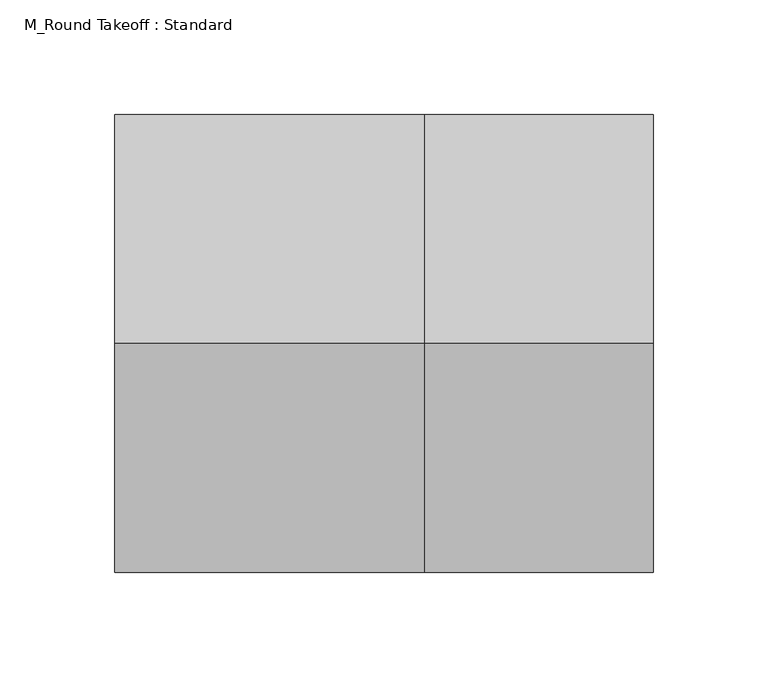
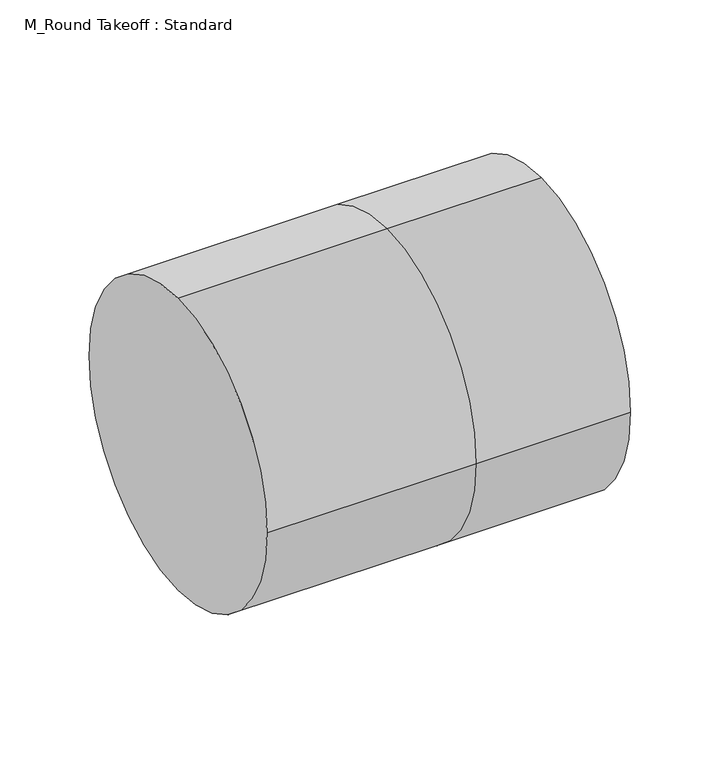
"""IFC4 building model written with IfcOpenShell, lengths in millimetres: duct fitting geometry, M_Round Takeoff : Standard."""

from ifc_helpers import new_model, si_unit, frame, origin, place, context, project, spatial, circle_curve, source, transform, mapped, element, save
from ifc_brep_helpers import plane_surface, cylinder_surface, advanced_brep


def m_round_takeoff_standard_0ce1f715(model_context):
    return source(origin(), model_context, "Body", "AdvancedBrep", [
        advanced_brep(
        [(-135.3253562, 0.0, 100.0), (-135.3253562, 100.0, 0.0), (-135.3253562, 0.0, -100.0), (-135.3253562, -100.0, 0.0), (0.0, -100.0, 0.0), (0.0, 0.0, 100.0), (0.0, 0.0, -100.0), (0.0, 100.0, 0.0), (100.0, 0.0, 100.0), (100.0, -100.0, 0.0), (100.0, 0.0, -100.0), (100.0, 100.0, 0.0)],
        [
            (0, 1, circle_curve(frame((-135.3253562, 0.0, 0.0), z_axis=(-1.0, 0.0, 0.0), x_axis=(0.0, -1.0, 0.0)), 100.0)),
            (1, 2, circle_curve(frame((-135.3253562, 0.0, 0.0), z_axis=(-1.0, 0.0, 0.0), x_axis=(0.0, -1.0, 0.0)), 100.0)),
            (2, 3, circle_curve(frame((-135.3253562, 0.0, 0.0), z_axis=(-1.0, 0.0, 0.0), x_axis=(0.0, -1.0, 0.0)), 100.0)),
            (3, 0, circle_curve(frame((-135.3253562, 0.0, 0.0), z_axis=(-1.0, 0.0, 0.0), x_axis=(0.0, -1.0, 0.0)), 100.0)),
            (3, 4),
            (4, 5, circle_curve(frame((0.0, 0.0, 0.0), z_axis=(-1.0, 0.0, 0.0), x_axis=(0.0, -1.0, 0.0)), 100.0)),
            (5, 0),
            (2, 6),
            (6, 4, circle_curve(frame((0.0, 0.0, 0.0), z_axis=(-1.0, 0.0, 0.0), x_axis=(0.0, -1.0, 0.0)), 100.0)),
            (1, 7),
            (7, 6, circle_curve(frame((0.0, 0.0, 0.0), z_axis=(-1.0, 0.0, 0.0), x_axis=(0.0, -1.0, 0.0)), 100.0)),
            (5, 7, circle_curve(frame((0.0, 0.0, 0.0), z_axis=(-1.0, 0.0, 0.0), x_axis=(0.0, -1.0, 0.0)), 100.0)),
            (8, 9, circle_curve(frame((100.0, 0.0, 0.0), z_axis=(1.0, 0.0, 0.0), x_axis=(0.0, -1.0, 0.0)), 100.0)),
            (9, 10, circle_curve(frame((100.0, 0.0, 0.0), z_axis=(1.0, 0.0, 0.0), x_axis=(0.0, -1.0, 0.0)), 100.0)),
            (10, 11, circle_curve(frame((100.0, 0.0, 0.0), z_axis=(1.0, 0.0, 0.0), x_axis=(0.0, -1.0, 0.0)), 100.0)),
            (11, 8, circle_curve(frame((100.0, 0.0, 0.0), z_axis=(1.0, 0.0, 0.0), x_axis=(0.0, -1.0, 0.0)), 100.0)),
            (8, 5),
            (4, 9),
            (6, 10),
            (7, 11),
        ],
        [
            plane_surface(frame((-135.3253562, 0.0, 0.0), z_axis=(-1.0, 0.0, 0.0), x_axis=(0.0, 0.0, 1.0))),
            cylinder_surface(frame((-135.3253562, 0.0, 0.0), z_axis=(-1.0, 0.0, 0.0), x_axis=(0.0, -1.0, 0.0)), 100.0),
            plane_surface(frame((100.0, 0.0, 0.0), z_axis=(1.0, 0.0, 0.0), x_axis=(0.0, 0.0, 1.0))),
            cylinder_surface(frame((0.0, 0.0, 0.0), z_axis=(-1.0, 0.0, 0.0), x_axis=(0.0, -1.0, 0.0)), 100.0),
        ],
        [
            (0, [[1, 2, 3, 4]]),
            (1, [[5, 6, 7, -4]]),
            (1, [[8, 9, -5, -3]]),
            (1, [[10, 11, -8, -2]]),
            (1, [[-7, 12, -10, -1]]),
            (2, [[13, 14, 15, 16]]),
            (3, [[17, -6, 18, -13]]),
            (3, [[-18, -9, 19, -14]]),
            (3, [[-19, -11, 20, -15]]),
            (3, [[-20, -12, -17, -16]]),
        ],
    ),
        advanced_brep(
        [(100.0, 0.0, 100.0), (100.0, -100.0, 0.0), (100.0, 0.0, -100.0), (100.0, 100.0, 0.0), (0.0, 0.0, 100.0), (0.0, -100.0, 0.0), (0.0, 0.0, -100.0), (0.0, 100.0, 0.0), (-135.3253562, 0.0, 100.0), (-135.3253562, 100.0, 0.0), (-135.3253562, 0.0, -100.0), (-135.3253562, -100.0, 0.0)],
        [
            (0, 1, circle_curve(frame((100.0, 0.0, 0.0), z_axis=(1.0, 0.0, 0.0), x_axis=(0.0, -1.0, 0.0)), 100.0)),
            (1, 2, circle_curve(frame((100.0, 0.0, 0.0), z_axis=(1.0, 0.0, 0.0), x_axis=(0.0, -1.0, 0.0)), 100.0)),
            (2, 3, circle_curve(frame((100.0, 0.0, 0.0), z_axis=(1.0, 0.0, 0.0), x_axis=(0.0, -1.0, 0.0)), 100.0)),
            (3, 0, circle_curve(frame((100.0, 0.0, 0.0), z_axis=(1.0, 0.0, 0.0), x_axis=(0.0, -1.0, 0.0)), 100.0)),
            (0, 4),
            (4, 5, circle_curve(frame((0.0, 0.0, 0.0), z_axis=(1.0, 0.0, 0.0), x_axis=(0.0, -1.0, 0.0)), 100.0)),
            (5, 1),
            (5, 6, circle_curve(frame((0.0, 0.0, 0.0), z_axis=(1.0, 0.0, 0.0), x_axis=(0.0, -1.0, 0.0)), 100.0)),
            (6, 2),
            (6, 7, circle_curve(frame((0.0, 0.0, 0.0), z_axis=(1.0, 0.0, 0.0), x_axis=(0.0, -1.0, 0.0)), 100.0)),
            (7, 3),
            (7, 4, circle_curve(frame((0.0, 0.0, 0.0), z_axis=(1.0, 0.0, 0.0), x_axis=(0.0, -1.0, 0.0)), 100.0)),
            (8, 9, circle_curve(frame((-135.3253562, 0.0, 0.0), z_axis=(-1.0, 0.0, 0.0), x_axis=(0.0, -1.0, 0.0)), 100.0)),
            (9, 10, circle_curve(frame((-135.3253562, 0.0, 0.0), z_axis=(-1.0, 0.0, 0.0), x_axis=(0.0, -1.0, 0.0)), 100.0)),
            (10, 11, circle_curve(frame((-135.3253562, 0.0, 0.0), z_axis=(-1.0, 0.0, 0.0), x_axis=(0.0, -1.0, 0.0)), 100.0)),
            (11, 8, circle_curve(frame((-135.3253562, 0.0, 0.0), z_axis=(-1.0, 0.0, 0.0), x_axis=(0.0, -1.0, 0.0)), 100.0)),
            (11, 5),
            (4, 8),
            (10, 6),
            (9, 7),
        ],
        [
            plane_surface(frame((100.0, 0.0, 0.0), z_axis=(1.0, 0.0, 0.0), x_axis=(0.0, 0.0, 1.0))),
            cylinder_surface(frame((0.0, 0.0, 0.0), z_axis=(-1.0, 0.0, 0.0), x_axis=(0.0, -1.0, 0.0)), 100.0),
            plane_surface(frame((-135.3253562, 0.0, 0.0), z_axis=(-1.0, 0.0, 0.0), x_axis=(0.0, 0.0, 1.0))),
            cylinder_surface(frame((-135.3253562, 0.0, 0.0), z_axis=(-1.0, 0.0, 0.0), x_axis=(0.0, -1.0, 0.0)), 100.0),
        ],
        [
            (0, [[1, 2, 3, 4]]),
            (1, [[5, 6, 7, -1]]),
            (1, [[-7, 8, 9, -2]]),
            (1, [[-9, 10, 11, -3]]),
            (1, [[-11, 12, -5, -4]]),
            (2, [[13, 14, 15, 16]]),
            (3, [[17, -6, 18, -16]]),
            (3, [[19, -8, -17, -15]]),
            (3, [[20, -10, -19, -14]]),
            (3, [[-18, -12, -20, -13]]),
        ],
    ),
        advanced_brep(
        [(-135.3253562, 0.0, 100.0), (-135.3253562, 100.0, 0.0), (-135.3253562, 0.0, -100.0), (-135.3253562, -100.0, 0.0), (0.0, -100.0, 0.0), (0.0, 0.0, 100.0), (0.0, 0.0, -100.0), (0.0, 100.0, 0.0), (100.0, 0.0, 100.0), (100.0, -100.0, 0.0), (100.0, 0.0, -100.0), (100.0, 100.0, 0.0)],
        [
            (0, 1, circle_curve(frame((-135.3253562, 0.0, 0.0), z_axis=(-1.0, 0.0, 0.0), x_axis=(0.0, -1.0, 0.0)), 100.0)),
            (1, 2, circle_curve(frame((-135.3253562, 0.0, 0.0), z_axis=(-1.0, 0.0, 0.0), x_axis=(0.0, -1.0, 0.0)), 100.0)),
            (2, 3, circle_curve(frame((-135.3253562, 0.0, 0.0), z_axis=(-1.0, 0.0, 0.0), x_axis=(0.0, -1.0, 0.0)), 100.0)),
            (3, 0, circle_curve(frame((-135.3253562, 0.0, 0.0), z_axis=(-1.0, 0.0, 0.0), x_axis=(0.0, -1.0, 0.0)), 100.0)),
            (3, 4),
            (4, 5, circle_curve(frame((0.0, 0.0, 0.0), z_axis=(-1.0, 0.0, 0.0), x_axis=(0.0, -1.0, 0.0)), 100.0)),
            (5, 0),
            (2, 6),
            (6, 4, circle_curve(frame((0.0, 0.0, 0.0), z_axis=(-1.0, 0.0, 0.0), x_axis=(0.0, -1.0, 0.0)), 100.0)),
            (1, 7),
            (7, 6, circle_curve(frame((0.0, 0.0, 0.0), z_axis=(-1.0, 0.0, 0.0), x_axis=(0.0, -1.0, 0.0)), 100.0)),
            (5, 7, circle_curve(frame((0.0, 0.0, 0.0), z_axis=(-1.0, 0.0, 0.0), x_axis=(0.0, -1.0, 0.0)), 100.0)),
            (8, 9, circle_curve(frame((100.0, 0.0, 0.0), z_axis=(1.0, 0.0, 0.0), x_axis=(0.0, -1.0, 0.0)), 100.0)),
            (9, 10, circle_curve(frame((100.0, 0.0, 0.0), z_axis=(1.0, 0.0, 0.0), x_axis=(0.0, -1.0, 0.0)), 100.0)),
            (10, 11, circle_curve(frame((100.0, 0.0, 0.0), z_axis=(1.0, 0.0, 0.0), x_axis=(0.0, -1.0, 0.0)), 100.0)),
            (11, 8, circle_curve(frame((100.0, 0.0, 0.0), z_axis=(1.0, 0.0, 0.0), x_axis=(0.0, -1.0, 0.0)), 100.0)),
            (8, 5),
            (4, 9),
            (6, 10),
            (7, 11),
        ],
        [
            plane_surface(frame((-135.3253562, 0.0, 0.0), z_axis=(-1.0, 0.0, 0.0), x_axis=(0.0, 0.0, 1.0))),
            cylinder_surface(frame((-135.3253562, 0.0, 0.0), z_axis=(-1.0, 0.0, 0.0), x_axis=(0.0, -1.0, 0.0)), 100.0),
            plane_surface(frame((100.0, 0.0, 0.0), z_axis=(1.0, 0.0, 0.0), x_axis=(0.0, 0.0, 1.0))),
            cylinder_surface(frame((0.0, 0.0, 0.0), z_axis=(-1.0, 0.0, 0.0), x_axis=(0.0, -1.0, 0.0)), 100.0),
        ],
        [
            (0, [[1, 2, 3, 4]]),
            (1, [[5, 6, 7, -4]]),
            (1, [[8, 9, -5, -3]]),
            (1, [[10, 11, -8, -2]]),
            (1, [[-7, 12, -10, -1]]),
            (2, [[13, 14, 15, 16]]),
            (3, [[17, -6, 18, -13]]),
            (3, [[-18, -9, 19, -14]]),
            (3, [[-19, -11, 20, -15]]),
            (3, [[-20, -12, -17, -16]]),
        ],
    ),
    ])


if __name__ == "__main__":
    model = new_model("IFC4")
    model_context = context("Model", 3, world=origin())
    ifc_project = project(units=[si_unit("LENGTHUNIT", "METRE", prefix="MILLI")], contexts=[model_context])
    site = spatial("IfcSite", under=ifc_project)
    building = spatial("IfcBuilding", under=site)
    placement = place(None, origin())
    m_round_takeoff_standard_shape = m_round_takeoff_standard_0ce1f715(model_context)
    element("IfcDuctFitting", 1, ObjectType="M_Round Takeoff : Standard", at=placement, inside=building, context=model_context, shape_type="MappedRepresentation", body=[
        mapped(m_round_takeoff_standard_shape, transform((0.0, 0.0, 0.0), x_axis=(1.0, 0.0, 0.0), y_axis=(0.0, 1.0, 0.0), z_axis=(0.0, 0.0, 1.0))),
    ])
    save(model, "model.ifc")
